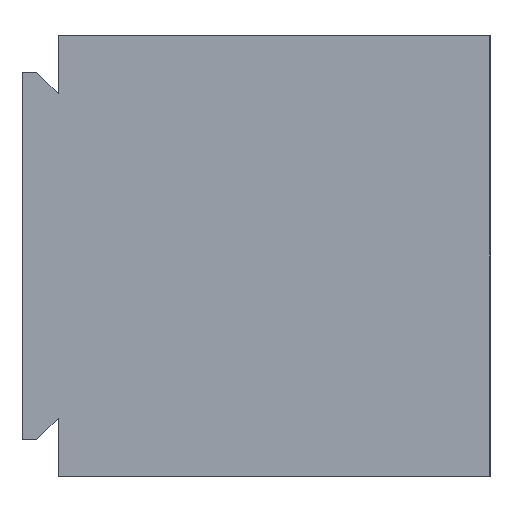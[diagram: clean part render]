
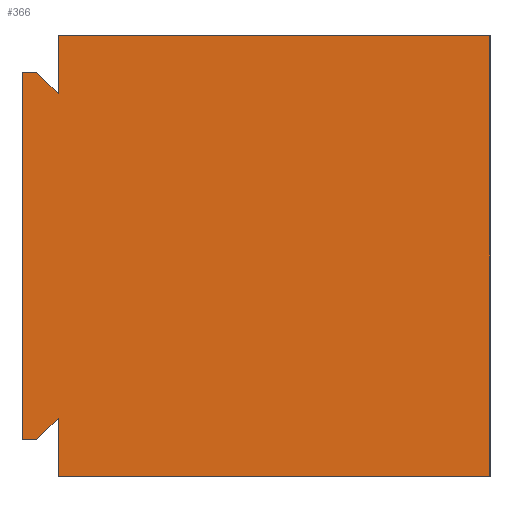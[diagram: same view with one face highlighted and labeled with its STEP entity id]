
A CAD part, left-side view. The second image highlights one B-rep face of the part: STEP entity #366.
In plain terms, the highlighted planar face has unit normal (-1, 0, 0).
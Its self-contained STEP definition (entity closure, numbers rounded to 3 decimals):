
#13 = VECTOR ( 'NONE', #585, 1000. ) ;
#18 = LINE ( 'NONE', #338, #868 ) ;
#20 = DIRECTION ( 'NONE',  ( 0., -1., 0. ) ) ;
#22 = CARTESIAN_POINT ( 'NONE',  ( -62.865, -16.192, 15.24 ) ) ;
#26 = CARTESIAN_POINT ( 'NONE',  ( -62.865, 13.692, 15.24 ) ) ;
#31 = CARTESIAN_POINT ( 'NONE',  ( -62.865, 16.192, -12.706 ) ) ;
#40 = CARTESIAN_POINT ( 'NONE',  ( -62.865, 13.692, 11.222 ) ) ;
#48 = VERTEX_POINT ( 'NONE', #417 ) ;
#53 = VECTOR ( 'NONE', #822, 1000. ) ;
#54 = VERTEX_POINT ( 'NONE', #26 ) ;
#56 = CARTESIAN_POINT ( 'NONE',  ( -62.865, -16.192, 15.24 ) ) ;
#74 = VERTEX_POINT ( 'NONE', #532 ) ;
#78 = ORIENTED_EDGE ( 'NONE', *, *, #491, .F. ) ;
#91 = EDGE_CURVE ( 'NONE', #493, #871, #545, .T. ) ;
#103 = CARTESIAN_POINT ( 'NONE',  ( -62.865, 13.692, -15.24 ) ) ;
#141 = LINE ( 'NONE', #22, #705 ) ;
#177 = VECTOR ( 'NONE', #544, 1000. ) ;
#179 = ORIENTED_EDGE ( 'NONE', *, *, #706, .F. ) ;
#195 = ORIENTED_EDGE ( 'NONE', *, *, #962, .F. ) ;
#197 = CARTESIAN_POINT ( 'NONE',  ( -62.865, 16.192, 12.706 ) ) ;
#224 = EDGE_CURVE ( 'NONE', #719, #74, #477, .T. ) ;
#232 = AXIS2_PLACEMENT_3D ( 'NONE', #870, #942, #478 ) ;
#251 = LINE ( 'NONE', #56, #177 ) ;
#260 = CARTESIAN_POINT ( 'NONE',  ( -62.865, 15.176, -12.706 ) ) ;
#263 = EDGE_CURVE ( 'NONE', #583, #54, #18, .T. ) ;
#297 = EDGE_CURVE ( 'NONE', #862, #583, #315, .T. ) ;
#304 = FACE_OUTER_BOUND ( 'NONE', #557, .T. ) ;
#305 = CARTESIAN_POINT ( 'NONE',  ( -62.865, -16.192, -15.24 ) ) ;
#307 = LINE ( 'NONE', #197, #13 ) ;
#315 = LINE ( 'NONE', #957, #327 ) ;
#325 = VECTOR ( 'NONE', #479, 1000. ) ;
#327 = VECTOR ( 'NONE', #732, 1000. ) ;
#338 = CARTESIAN_POINT ( 'NONE',  ( -62.865, 13.692, 15.24 ) ) ;
#366 = ADVANCED_FACE ( 'NONE', ( #304 ), #636, .T. ) ;
#371 = EDGE_CURVE ( 'NONE', #562, #862, #553, .T. ) ;
#417 = CARTESIAN_POINT ( 'NONE',  ( -62.865, -16.192, -15.24 ) ) ;
#433 = CARTESIAN_POINT ( 'NONE',  ( -62.865, 16.192, 12.706 ) ) ;
#463 = VECTOR ( 'NONE', #850, 1000. ) ;
#477 = LINE ( 'NONE', #31, #531 ) ;
#478 = DIRECTION ( 'NONE',  ( 0., 0., 1. ) ) ;
#479 = DIRECTION ( 'NONE',  ( 0., -1., 0. ) ) ;
#487 = DIRECTION ( 'NONE',  ( 0., 0., 1. ) ) ;
#491 = EDGE_CURVE ( 'NONE', #54, #683, #141, .T. ) ;
#493 = VERTEX_POINT ( 'NONE', #103 ) ;
#531 = VECTOR ( 'NONE', #582, 1000. ) ;
#532 = CARTESIAN_POINT ( 'NONE',  ( -62.865, 16.192, -12.706 ) ) ;
#543 = ORIENTED_EDGE ( 'NONE', *, *, #263, .F. ) ;
#544 = DIRECTION ( 'NONE',  ( 0., 0., -1. ) ) ;
#545 = LINE ( 'NONE', #687, #463 ) ;
#553 = LINE ( 'NONE', #869, #325 ) ;
#557 = EDGE_LOOP ( 'NONE', ( #78, #543, #622, #1008, #195, #806, #179, #917, #945, #730 ) ) ;
#562 = VERTEX_POINT ( 'NONE', #433 ) ;
#582 = DIRECTION ( 'NONE',  ( 0., 1., 0. ) ) ;
#583 = VERTEX_POINT ( 'NONE', #40 ) ;
#585 = DIRECTION ( 'NONE',  ( 0., 0., 1. ) ) ;
#622 = ORIENTED_EDGE ( 'NONE', *, *, #297, .F. ) ;
#636 = PLANE ( 'NONE',  #232 ) ;
#679 = LINE ( 'NONE', #305, #927 ) ;
#683 = VERTEX_POINT ( 'NONE', #742 ) ;
#687 = CARTESIAN_POINT ( 'NONE',  ( -62.865, 13.692, -11.222 ) ) ;
#697 = CARTESIAN_POINT ( 'NONE',  ( -62.865, 15.176, 12.706 ) ) ;
#701 = DIRECTION ( 'NONE',  ( 0., 1., 0. ) ) ;
#705 = VECTOR ( 'NONE', #20, 1000. ) ;
#706 = EDGE_CURVE ( 'NONE', #871, #719, #817, .T. ) ;
#719 = VERTEX_POINT ( 'NONE', #749 ) ;
#730 = ORIENTED_EDGE ( 'NONE', *, *, #752, .F. ) ;
#732 = DIRECTION ( 'NONE',  ( 0., -0.707, -0.707 ) ) ;
#742 = CARTESIAN_POINT ( 'NONE',  ( -62.865, -16.192, 15.24 ) ) ;
#749 = CARTESIAN_POINT ( 'NONE',  ( -62.865, 15.176, -12.706 ) ) ;
#752 = EDGE_CURVE ( 'NONE', #683, #48, #251, .T. ) ;
#788 = CARTESIAN_POINT ( 'NONE',  ( -62.865, 13.692, -11.222 ) ) ;
#806 = ORIENTED_EDGE ( 'NONE', *, *, #224, .F. ) ;
#817 = LINE ( 'NONE', #260, #53 ) ;
#822 = DIRECTION ( 'NONE',  ( 0., 0.707, -0.707 ) ) ;
#850 = DIRECTION ( 'NONE',  ( 0., 0., 1. ) ) ;
#862 = VERTEX_POINT ( 'NONE', #697 ) ;
#865 = EDGE_CURVE ( 'NONE', #48, #493, #679, .T. ) ;
#868 = VECTOR ( 'NONE', #487, 1000. ) ;
#869 = CARTESIAN_POINT ( 'NONE',  ( -62.865, 15.176, 12.706 ) ) ;
#870 = CARTESIAN_POINT ( 'NONE',  ( -62.865, 0., 0. ) ) ;
#871 = VERTEX_POINT ( 'NONE', #788 ) ;
#917 = ORIENTED_EDGE ( 'NONE', *, *, #91, .F. ) ;
#927 = VECTOR ( 'NONE', #701, 1000. ) ;
#942 = DIRECTION ( 'NONE',  ( -1., 0., 0. ) ) ;
#945 = ORIENTED_EDGE ( 'NONE', *, *, #865, .F. ) ;
#957 = CARTESIAN_POINT ( 'NONE',  ( -62.865, 13.692, 11.222 ) ) ;
#962 = EDGE_CURVE ( 'NONE', #74, #562, #307, .T. ) ;
#1008 = ORIENTED_EDGE ( 'NONE', *, *, #371, .F. ) ;
